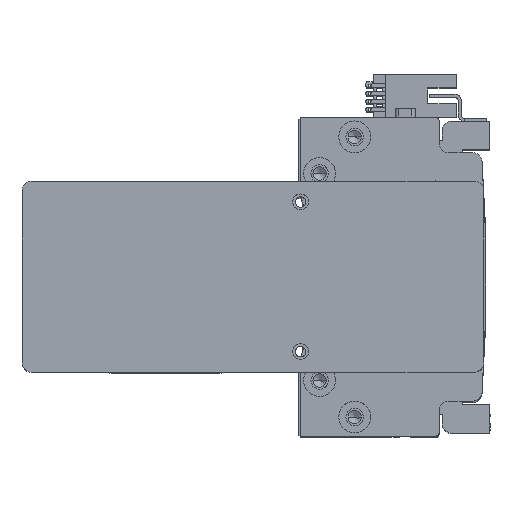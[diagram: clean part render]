
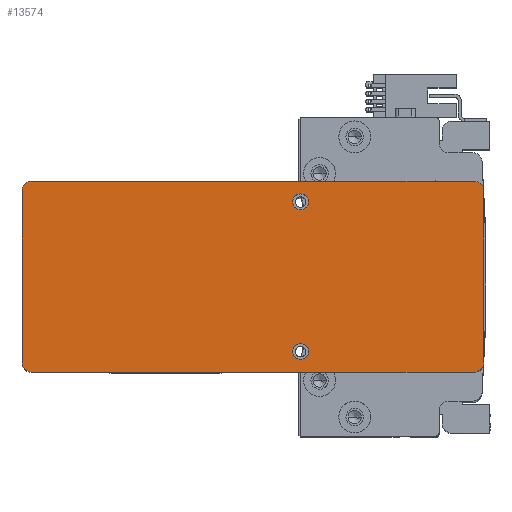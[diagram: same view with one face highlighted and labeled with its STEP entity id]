
A CAD part, top view. The second image highlights one B-rep face of the part: STEP entity #13574.
In plain terms, the highlighted planar face has unit normal (0, 0, 1) as drawn and (0, 0, -1) by its records, which use the part's own axes.
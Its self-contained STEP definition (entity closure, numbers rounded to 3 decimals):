
#272 = ORIENTED_EDGE ( 'NONE', *, *, #9880, .T. ) ;
#471 = AXIS2_PLACEMENT_3D ( 'NONE', #22237, #3894, #25280 ) ;
#506 = CARTESIAN_POINT ( 'NONE',  ( -72.5, -27., 0. ) ) ;
#632 = FACE_BOUND ( 'NONE', #28452, .T. ) ;
#789 = CARTESIAN_POINT ( 'NONE',  ( 72.5, -27., 0. ) ) ;
#1479 = CARTESIAN_POINT ( 'NONE',  ( -69.5, -30., 0. ) ) ;
#1768 = DIRECTION ( 'NONE',  ( 0., 0., 1. ) ) ;
#1963 = EDGE_CURVE ( 'NONE', #37074, #2223, #38108, .T. ) ;
#2223 = VERTEX_POINT ( 'NONE', #506 ) ;
#2564 = CIRCLE ( 'NONE', #16597, 3. ) ;
#2978 = VECTOR ( 'NONE', #14403, 1000. ) ;
#3154 = CARTESIAN_POINT ( 'NONE',  ( 72.5, 30., 0. ) ) ;
#3894 = DIRECTION ( 'NONE',  ( 0., 0., -1. ) ) ;
#4279 = CIRCLE ( 'NONE', #14692, 2.5 ) ;
#4417 = CARTESIAN_POINT ( 'NONE',  ( 17.5, 23.5, 0. ) ) ;
#4773 = CIRCLE ( 'NONE', #10428, 2.5 ) ;
#4883 = DIRECTION ( 'NONE',  ( 0., 0., -1. ) ) ;
#5575 = CARTESIAN_POINT ( 'NONE',  ( 72.5, -30., 0. ) ) ;
#5623 = VERTEX_POINT ( 'NONE', #38374 ) ;
#5793 = ORIENTED_EDGE ( 'NONE', *, *, #36639, .F. ) ;
#6251 = DIRECTION ( 'NONE',  ( -1., 0., 0. ) ) ;
#6948 = ORIENTED_EDGE ( 'NONE', *, *, #37691, .T. ) ;
#7891 = EDGE_CURVE ( 'NONE', #14954, #33840, #11628, .T. ) ;
#8234 = ORIENTED_EDGE ( 'NONE', *, *, #27953, .F. ) ;
#8305 = CARTESIAN_POINT ( 'NONE',  ( 15., -23.5, 0. ) ) ;
#9091 = EDGE_CURVE ( 'NONE', #30219, #22379, #4773, .T. ) ;
#9526 = DIRECTION ( 'NONE',  ( 0., 0., -1. ) ) ;
#9880 = EDGE_CURVE ( 'NONE', #32817, #2223, #23284, .T. ) ;
#10428 = AXIS2_PLACEMENT_3D ( 'NONE', #23195, #4883, #26235 ) ;
#10487 = ORIENTED_EDGE ( 'NONE', *, *, #18198, .F. ) ;
#10586 = AXIS2_PLACEMENT_3D ( 'NONE', #8305, #29668, #11354 ) ;
#10645 = VERTEX_POINT ( 'NONE', #11150 ) ;
#10724 = DIRECTION ( 'NONE',  ( 0., 0., -1. ) ) ;
#10834 = CARTESIAN_POINT ( 'NONE',  ( 15., -23.5, 0. ) ) ;
#11104 = LINE ( 'NONE', #20412, #2978 ) ;
#11150 = CARTESIAN_POINT ( 'NONE',  ( 17.5, -23.5, 0. ) ) ;
#11354 = DIRECTION ( 'NONE',  ( -1., 0., 0. ) ) ;
#11552 = DIRECTION ( 'NONE',  ( 0., 0., -1. ) ) ;
#11628 = CIRCLE ( 'NONE', #37185, 3. ) ;
#12948 = VERTEX_POINT ( 'NONE', #14091 ) ;
#13574 = ADVANCED_FACE ( 'NONE', ( #32179, #632, #35045 ), #29262, .F. ) ;
#13929 = DIRECTION ( 'NONE',  ( -1., 0., 0. ) ) ;
#14091 = CARTESIAN_POINT ( 'NONE',  ( 69.5, -30., 0. ) ) ;
#14270 = AXIS2_PLACEMENT_3D ( 'NONE', #16474, #37805, #19553 ) ;
#14403 = DIRECTION ( 'NONE',  ( 0., 1., 0. ) ) ;
#14657 = VECTOR ( 'NONE', #6251, 1000. ) ;
#14692 = AXIS2_PLACEMENT_3D ( 'NONE', #10834, #32204, #13929 ) ;
#14954 = VERTEX_POINT ( 'NONE', #22861 ) ;
#15092 = EDGE_CURVE ( 'NONE', #33230, #33840, #11104, .T. ) ;
#16102 = EDGE_CURVE ( 'NONE', #10645, #19891, #4279, .T. ) ;
#16474 = CARTESIAN_POINT ( 'NONE',  ( 15., 23.5, 0. ) ) ;
#16597 = AXIS2_PLACEMENT_3D ( 'NONE', #27816, #9526, #30877 ) ;
#17875 = DIRECTION ( 'NONE',  ( 1., 0., 0. ) ) ;
#18149 = ORIENTED_EDGE ( 'NONE', *, *, #1963, .F. ) ;
#18198 = EDGE_CURVE ( 'NONE', #22379, #30219, #25303, .T. ) ;
#18510 = CARTESIAN_POINT ( 'NONE',  ( -72.5, -30., 0. ) ) ;
#18595 = VECTOR ( 'NONE', #17875, 1000. ) ;
#19553 = DIRECTION ( 'NONE',  ( -1., 0., 0. ) ) ;
#19891 = VERTEX_POINT ( 'NONE', #31862 ) ;
#20098 = CARTESIAN_POINT ( 'NONE',  ( 0., 0., 0. ) ) ;
#20412 = CARTESIAN_POINT ( 'NONE',  ( 72.5, -30., 0. ) ) ;
#21915 = VECTOR ( 'NONE', #36897, 1000. ) ;
#22237 = CARTESIAN_POINT ( 'NONE',  ( -69.5, -27., 0. ) ) ;
#22379 = VERTEX_POINT ( 'NONE', #25980 ) ;
#22861 = CARTESIAN_POINT ( 'NONE',  ( 69.5, 30., 0. ) ) ;
#23167 = DIRECTION ( 'NONE',  ( 1., 0., 0. ) ) ;
#23195 = CARTESIAN_POINT ( 'NONE',  ( 15., 23.5, 0. ) ) ;
#23284 = CIRCLE ( 'NONE', #471, 3. ) ;
#24431 = AXIS2_PLACEMENT_3D ( 'NONE', #29042, #10724, #32091 ) ;
#24615 = EDGE_LOOP ( 'NONE', ( #10487, #39338 ) ) ;
#25280 = DIRECTION ( 'NONE',  ( 1., 0., 0. ) ) ;
#25303 = CIRCLE ( 'NONE', #14270, 2.5 ) ;
#25315 = CARTESIAN_POINT ( 'NONE',  ( 72.5, 27., 0. ) ) ;
#25628 = EDGE_CURVE ( 'NONE', #32817, #12948, #34814, .T. ) ;
#25980 = CARTESIAN_POINT ( 'NONE',  ( 12.5, 23.5, 0. ) ) ;
#25983 = CIRCLE ( 'NONE', #24431, 3. ) ;
#26200 = ORIENTED_EDGE ( 'NONE', *, *, #15092, .F. ) ;
#26235 = DIRECTION ( 'NONE',  ( -1., 0., 0. ) ) ;
#26510 = ORIENTED_EDGE ( 'NONE', *, *, #25628, .F. ) ;
#27509 = AXIS2_PLACEMENT_3D ( 'NONE', #20098, #1768, #23167 ) ;
#27816 = CARTESIAN_POINT ( 'NONE',  ( 69.5, -27., 0. ) ) ;
#27953 = EDGE_CURVE ( 'NONE', #19891, #10645, #35010, .T. ) ;
#28452 = EDGE_LOOP ( 'NONE', ( #8234, #29388 ) ) ;
#29042 = CARTESIAN_POINT ( 'NONE',  ( -69.5, 27., 0. ) ) ;
#29171 = ORIENTED_EDGE ( 'NONE', *, *, #35724, .T. ) ;
#29262 = PLANE ( 'NONE',  #27509 ) ;
#29388 = ORIENTED_EDGE ( 'NONE', *, *, #16102, .F. ) ;
#29668 = DIRECTION ( 'NONE',  ( 0., 0., -1. ) ) ;
#29883 = CARTESIAN_POINT ( 'NONE',  ( 69.5, 27., 0. ) ) ;
#30219 = VERTEX_POINT ( 'NONE', #4417 ) ;
#30877 = DIRECTION ( 'NONE',  ( 1., 0., 0. ) ) ;
#31855 = LINE ( 'NONE', #3154, #14657 ) ;
#31862 = CARTESIAN_POINT ( 'NONE',  ( 12.5, -23.5, 0. ) ) ;
#32091 = DIRECTION ( 'NONE',  ( 1., 0., 0. ) ) ;
#32179 = FACE_BOUND ( 'NONE', #24615, .T. ) ;
#32204 = DIRECTION ( 'NONE',  ( 0., 0., -1. ) ) ;
#32817 = VERTEX_POINT ( 'NONE', #1479 ) ;
#32924 = CARTESIAN_POINT ( 'NONE',  ( -72.5, 27., 0. ) ) ;
#32953 = DIRECTION ( 'NONE',  ( 1., 0., 0. ) ) ;
#33230 = VERTEX_POINT ( 'NONE', #789 ) ;
#33840 = VERTEX_POINT ( 'NONE', #25315 ) ;
#34814 = LINE ( 'NONE', #5575, #18595 ) ;
#35010 = CIRCLE ( 'NONE', #10586, 2.5 ) ;
#35045 = FACE_OUTER_BOUND ( 'NONE', #39215, .T. ) ;
#35724 = EDGE_CURVE ( 'NONE', #37074, #5623, #25983, .T. ) ;
#36639 = EDGE_CURVE ( 'NONE', #14954, #5623, #31855, .T. ) ;
#36897 = DIRECTION ( 'NONE',  ( 0., -1., 0. ) ) ;
#37074 = VERTEX_POINT ( 'NONE', #32924 ) ;
#37185 = AXIS2_PLACEMENT_3D ( 'NONE', #29883, #11552, #32953 ) ;
#37691 = EDGE_CURVE ( 'NONE', #33230, #12948, #2564, .T. ) ;
#37805 = DIRECTION ( 'NONE',  ( 0., 0., -1. ) ) ;
#37954 = ORIENTED_EDGE ( 'NONE', *, *, #7891, .T. ) ;
#38108 = LINE ( 'NONE', #18510, #21915 ) ;
#38374 = CARTESIAN_POINT ( 'NONE',  ( -69.5, 30., 0. ) ) ;
#39215 = EDGE_LOOP ( 'NONE', ( #26200, #6948, #26510, #272, #18149, #29171, #5793, #37954 ) ) ;
#39338 = ORIENTED_EDGE ( 'NONE', *, *, #9091, .F. ) ;
